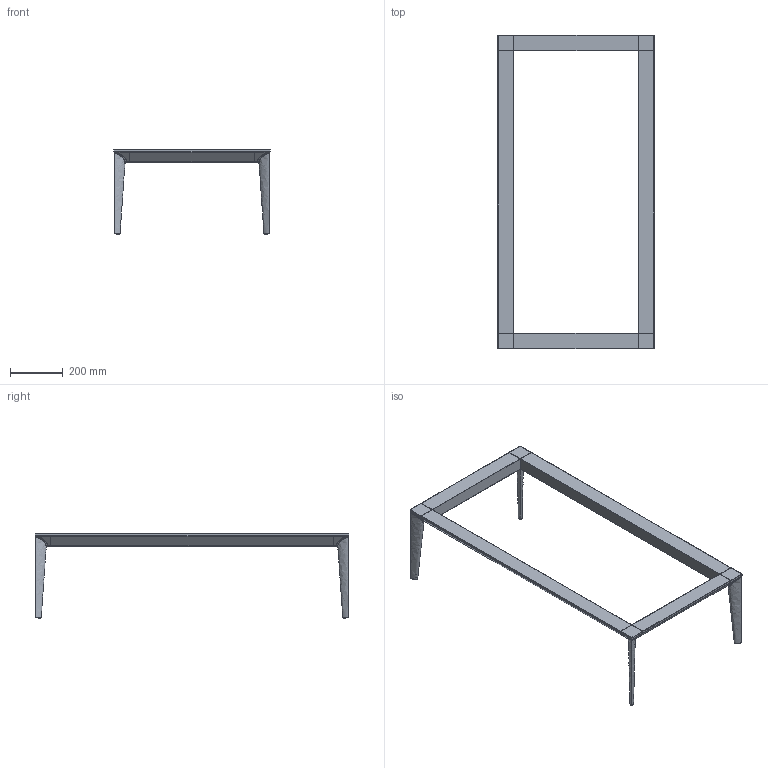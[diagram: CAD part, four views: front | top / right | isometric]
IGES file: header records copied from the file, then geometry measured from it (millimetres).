
Global section: file name: C:\Users\alberto.volpato\Desktop\Files\BASE2.igs; native system: Rhinoceros ( Mar  9 2011 ); preprocessor: Trout Lake IGES 012 Mar  9 2011; date: 160505.081045; units: millimetre
Bounding box: 594.08 x 1194.07 x 323.19 mm (x, y, z)
Surface area: 808232.9 mm2 (no closed solid volume)
Topology: 0 solids, 0 shells, 448 faces, 4152 edges, 4128 vertices
Faces by surface type: bspline 448
